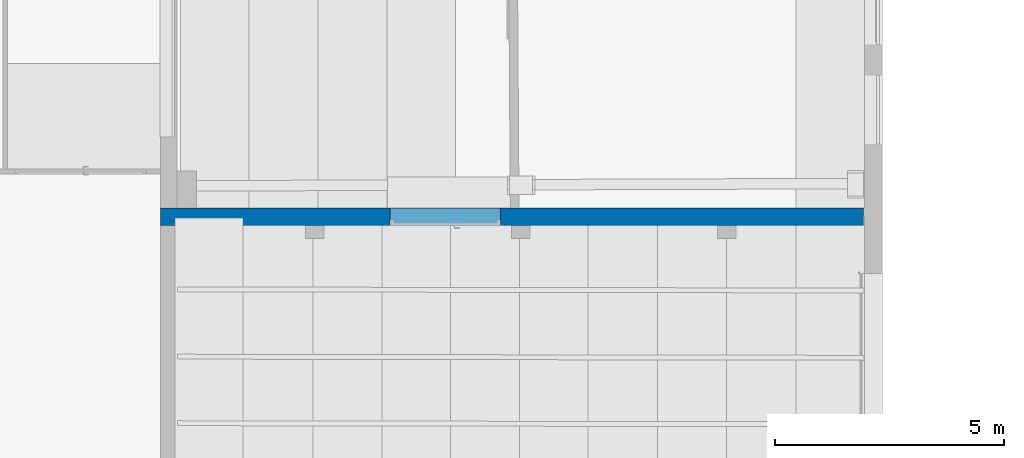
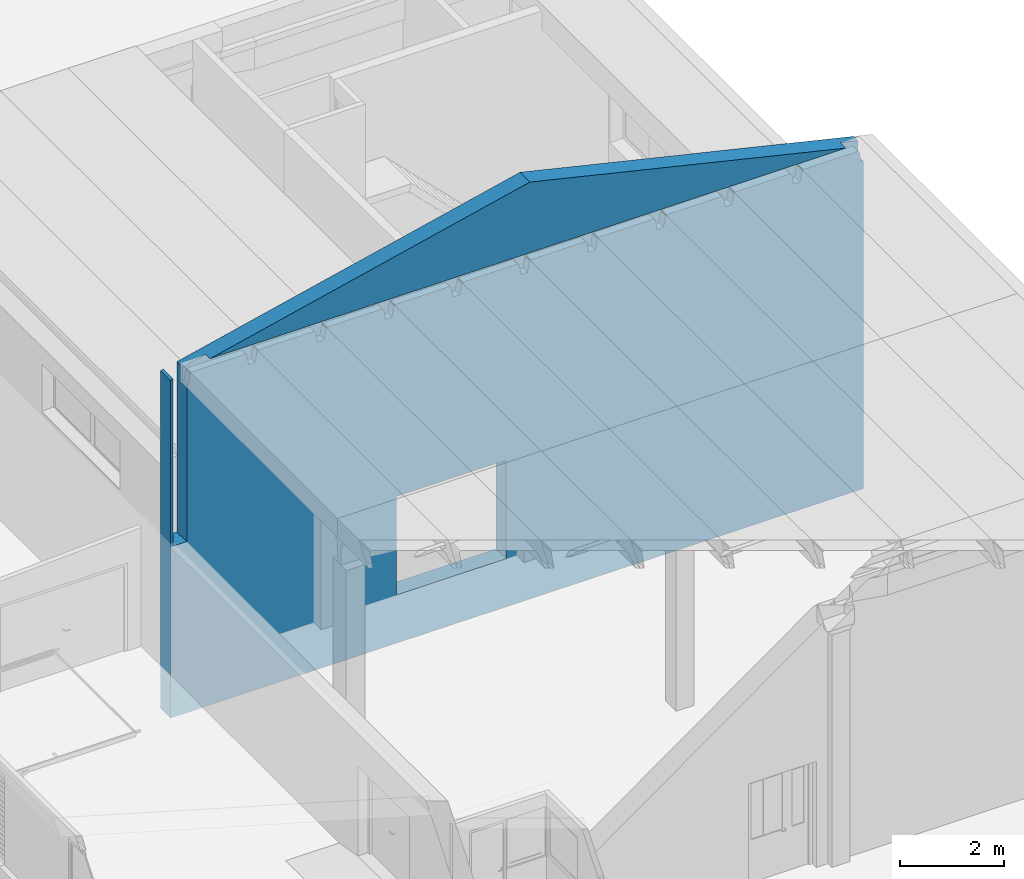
# One storey, part 140 of 301: 1 wall, 1 opening.
"""IFC2X3 building model written with IfcOpenShell, lengths in millimetres."""

from ifc_helpers import new_model, entity, si_unit, converted_unit, derived_unit, money_unit, direction, frame, origin_with_axes, place, context, subcontext, project, spatial, faceted_brep, material, type_object, element, save


model = new_model("IFC2X3")

# Units and contexts
model_context = context("Model", 3, precision=0.01, world=origin_with_axes(), true_north=direction((0.0, 1.0)))
body_context = subcontext(model_context, "Body", "Model", "MODEL_VIEW")
ifc_project = project(units=[si_unit("LENGTHUNIT", "METRE", prefix="MILLI"), si_unit("AREAUNIT", "SQUARE_METRE"), si_unit("VOLUMEUNIT", "CUBIC_METRE"), converted_unit("PLANEANGLEUNIT", "DEGREE", entity("IfcPlaneAngleMeasure", 0.0174532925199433), si_unit("PLANEANGLEUNIT", "RADIAN"), dimensions=[0, 0, 0, 0, 0, 0, 0]), money_unit("EUR"), converted_unit("TIMEUNIT", "Year", entity("IfcTimeMeasure", 31557600.0), si_unit("TIMEUNIT", "SECOND"), dimensions=[0, 0, 1, 0, 0, 0, 0]), si_unit("MASSUNIT", "GRAM", prefix="KILO"), si_unit("THERMODYNAMICTEMPERATUREUNIT", "DEGREE_CELSIUS"), si_unit("LUMINOUSINTENSITYUNIT", "LUMEN"), si_unit("ENERGYUNIT", "JOULE", prefix="MEGA"), derived_unit("THERMALCONDUCTANCEUNIT", [(si_unit("POWERUNIT", "WATT"), 1), (si_unit("LENGTHUNIT", "METRE"), -1), (si_unit("THERMODYNAMICTEMPERATUREUNIT", "KELVIN"), -1)]), derived_unit("SPECIFICHEATCAPACITYUNIT", [(si_unit("ENERGYUNIT", "JOULE"), 1), (si_unit("MASSUNIT", "GRAM", prefix="KILO"), -1), (si_unit("THERMODYNAMICTEMPERATUREUNIT", "KELVIN"), -1)]), derived_unit("MASSDENSITYUNIT", [(si_unit("MASSUNIT", "GRAM", prefix="KILO"), 1), (si_unit("VOLUMEUNIT", "CUBIC_METRE"), -1)])], contexts=[model_context])

# Site, building, storey
site_placement = place(None, frame((0.0, 0.0, 8650.0), z_axis=(0.0, 0.0, 1.0), x_axis=(1.0, 0.0, 0.0)))
site = spatial("IfcSite", under=ifc_project, at=site_placement, Name="43301:001:0844", CompositionType="ELEMENT")
building_placement = place(site_placement, origin_with_axes())
building = spatial("IfcBuilding", under=site, at=building_placement, Name="Kuressaare Ametikooli tuulikute mehaanikute õppekorpus", CompositionType="ELEMENT")
storey_placement = place(building_placement, origin_with_axes())
storey = spatial("IfcBuildingStorey", under=building, at=storey_placement, Name="1.korrus", CompositionType="ELEMENT", Elevation=0.0)

# Wall, opening
ifc_material = material(Name="GENEERILINE - KONSTRUKTRIOON")
wall_type = type_object("IfcWallType", Name="GENEERILINE - KONSTRUKTRIOON 380", PredefinedType="NOTDEFINED")
wall_placement = place(storey_placement, frame((103647.5122070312, 62318.34411621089, -1000.0), z_axis=(0.0, 0.0, 1.0), x_axis=(-0.9999999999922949, -3.925583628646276e-06, 0.0)))
wall = element("IfcWall", 1, at=wall_placement, inside=storey, type_object=wall_type, material=ifc_material, context=body_context, shape_type="Brep", body=[
    faceted_brep([(15388.75576031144, 0.0, 7980.099571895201), (7799.398324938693, 0.0, 9753.468595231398), (420.0000000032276, 0.0, 8009.271351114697), (420.0000000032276, 0.0, 0.0), (15748.7557603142, 0.0, 0.0), (15748.7557603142, 0.0, 7895.980085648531), (15688.75576031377, 0.0, 7910.00000002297), (15688.75576031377, 0.0, 4000.0), (15388.75576031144, 0.0, 4000.0), (10750.41112469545, 0.0, 3430.0), (10750.41112469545, 0.0, 1130.0), (8330.411124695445, 0.0, 1130.0), (8330.411124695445, 0.0, 3430.0), (15388.75661039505, 216.5496095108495, 7980.099571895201), (14875.62753598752, 216.5516238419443, 8100.0), (14875.62817761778, 379.9999999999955, 8100.0), (7799.399816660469, 380.0000000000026, 9753.468595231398), (420.0006593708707, 167.9667798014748, 8009.271351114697), (803.8587887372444, 380.0000000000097, 8100.0), (803.8579563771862, 167.9652729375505, 8100.0), (420.0006593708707, 167.9667798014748, 7659.999865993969), (420.0014917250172, 380.0000000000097, 7659.999865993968), (420.0014917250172, 380.0000000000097, 0.0), (15748.75725203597, 379.9999999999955, 0.0), (15748.75725203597, 379.9999999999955, 7895.98008564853), (15688.75725203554, 379.9999999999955, 7910.000000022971), (15688.75725203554, 379.9999999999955, 4000.0), (15388.75725203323, 379.9999999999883, 4000.0), (15388.75725203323, 379.9999999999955, 7659.999865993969), (15388.75661039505, 216.5496095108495, 7659.999865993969), (10750.41112469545, 380.0000000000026, 1130.0), (10750.41112469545, 380.0000000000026, 3430.0), (8330.41112469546, 380.0000000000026, 1130.0), (8330.41112469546, 380.0000000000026, 3430.0), (15354.75660740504, 216.5497429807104, 7659.999865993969), (15320.66257485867, 216.5498768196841, 7879.623205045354), (15314.97515704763, 216.5498991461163, 7899.247527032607), (15302.63678486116, 216.5499475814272, 7915.533266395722), (15285.28429592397, 216.5500157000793, 7926.319918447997), (15265.21971244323, 216.5500944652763, 7930.176500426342), (14109.47852598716, 216.5546314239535, 7930.176500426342), (14106.85257687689, 216.554641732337, 7930.264850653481), (14089.78391544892, 216.5547087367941, 7927.064983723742), (14074.91081180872, 216.5547671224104, 7918.100100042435), (14064.11008909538, 216.554809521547, 7904.50146995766), (14058.74468047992, 216.5548305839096, 7887.985091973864), (14017.82327707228, 216.5549912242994, 7659.999865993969), (13948.75661040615, 216.5552623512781, 7659.999865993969), (13948.75661040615, 216.5552623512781, 8100.0), (13948.75660018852, 213.9524324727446, 8100.0), (12421.63529326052, 213.9584273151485, 8100.0), (12421.63528297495, 211.3382863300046, 8100.0), (10921.63528298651, 211.3441747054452, 8100.0), (10921.63527279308, 208.7475087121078, 8100.0), (9421.635272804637, 208.7533970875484, 8100.0), (9421.635262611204, 206.1567310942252, 8100.0), (7921.635262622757, 206.1626194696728, 8100.0), (7921.635242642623, 201.0728945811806, 8100.0), (6421.635242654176, 201.0787829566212, 8100.0), (6421.635210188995, 192.8086299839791, 8100.000000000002), (4911.635210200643, 192.8145576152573, 8100.000000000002), (4911.635177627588, 184.5169290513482, 8100.000000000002), (3401.635177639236, 184.5228566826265, 8100.000000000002), (3401.635145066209, 176.2252281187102, 8100.000000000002), (1891.635145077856, 176.2311557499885, 8100.000000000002), (1891.635112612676, 167.9610027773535, 8100.0), (1891.635112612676, 167.9610027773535, 7659.999865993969), (1821.635112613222, 167.9612775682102, 7659.999865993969), (1779.819390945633, 167.9614417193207, 7889.861366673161), (1773.544638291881, 167.961466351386, 7906.466350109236), (1761.786733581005, 167.9615125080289, 7919.764833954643), (1746.075516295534, 167.961574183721, 7928.026531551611), (1728.455197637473, 167.9616433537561, 7930.176500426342), (557.3819686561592, 167.966240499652, 7930.176500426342), (537.3242740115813, 167.9663192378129, 7926.494206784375), (519.8824714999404, 167.9663877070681, 7915.927564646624), (507.3312928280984, 167.9664369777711, 7899.854658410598), (501.3076424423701, 167.9664606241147, 7880.3716905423), (466.6351156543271, 167.9665967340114, 7659.999865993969), (466.6359480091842, 380.0000000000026, 7659.999865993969), (501.3084747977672, 380.0000000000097, 7880.3716905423), (507.3321251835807, 380.0000000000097, 7899.854658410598), (519.8833038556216, 380.0000000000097, 7915.927564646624), (537.3251063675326, 380.0000000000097, 7926.494206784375), (557.3828010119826, 380.0000000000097, 7930.176500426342), (1728.45603001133, 380.0000000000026, 7930.176500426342), (1746.076348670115, 380.0000000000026, 7928.026531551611), (1761.787565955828, 380.0000000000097, 7919.764833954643), (1773.545470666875, 380.0000000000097, 7906.466350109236), (1779.820223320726, 380.0000000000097, 7889.861366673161), (1821.635944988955, 380.0000000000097, 7659.999865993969), (1967.135948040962, 380.0000000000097, 7659.99986599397), (2002.133106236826, 380.0000000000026, 7880.961904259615), (2008.371407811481, 380.0000000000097, 7900.300399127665), (2021.031632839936, 380.0000000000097, 7916.194186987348), (2038.48540147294, 380.0000000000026, 7926.59898159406), (2058.487780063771, 380.0000000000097, 7930.176500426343), (3237.214866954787, 380.0000000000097, 7930.176500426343), (3240.335330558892, 380.0000000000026, 7930.264850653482), (3257.193589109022, 380.0000000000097, 7927.357122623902), (3272.04782423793, 380.0000000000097, 7918.871401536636), (3283.114947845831, 380.0000000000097, 7905.826305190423), (3289.066473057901, 380.0000000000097, 7889.787754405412), (3331.169278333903, 380.0000000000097, 7659.99986599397), (3477.135948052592, 380.0000000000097, 7659.99986599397), (3512.133106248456, 380.0000000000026, 7880.961904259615), (3518.371407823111, 380.0000000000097, 7900.300399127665), (3531.031632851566, 380.0000000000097, 7916.194186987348), (3548.485401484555, 380.0000000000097, 7926.59898159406), (3568.487780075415, 380.0000000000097, 7930.176500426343), (4747.214866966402, 380.0000000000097, 7930.176500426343), (4750.335330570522, 380.0000000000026, 7930.264850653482), (4767.193589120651, 380.0000000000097, 7927.357122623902), (4782.047824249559, 380.0000000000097, 7918.871401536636), (4793.114947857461, 380.0000000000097, 7905.826305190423), (4799.066473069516, 380.0000000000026, 7889.787754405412), (4841.169278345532, 380.0000000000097, 7659.99986599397), (4987.135948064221, 380.0000000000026, 7659.99986599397), (5022.133106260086, 380.0000000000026, 7880.961904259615), (5028.371407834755, 380.0000000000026, 7900.300399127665), (5041.031632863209, 380.0000000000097, 7916.194186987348), (5058.485401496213, 380.0000000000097, 7926.59898159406), (5078.487780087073, 380.0000000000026, 7930.176500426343), (6257.214866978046, 380.0000000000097, 7930.176500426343), (6260.335330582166, 380.0000000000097, 7930.264850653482), (6277.193589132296, 380.0000000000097, 7927.357122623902), (6292.047824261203, 380.0000000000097, 7918.871401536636), (6303.114947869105, 380.0000000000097, 7905.826305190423), (6309.06647308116, 380.0000000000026, 7889.787754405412), (6351.169278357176, 380.0000000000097, 7659.99986599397), (6496.63594805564, 380.0000000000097, 7659.999865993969), (6531.308474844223, 380.0000000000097, 7880.3716905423), (6537.332125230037, 380.0000000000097, 7899.854658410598), (6549.883303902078, 380.0000000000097, 7915.927564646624), (6567.325106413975, 380.0000000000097, 7926.494206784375), (6587.382801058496, 380.0000000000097, 7930.176500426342), (7758.456030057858, 380.0000000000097, 7930.176500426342), (7776.076348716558, 380.0000000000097, 7928.026531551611), (7791.787566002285, 380.0000000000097, 7919.764833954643), (7803.545470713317, 380.0000000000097, 7906.466350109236), (7809.820223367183, 380.0000000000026, 7889.861366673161), (7851.635945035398, 380.0000000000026, 7659.999865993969), (7996.635948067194, 380.0000000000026, 7659.999865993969), (8031.308474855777, 380.0000000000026, 7880.3716905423), (8037.332125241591, 380.0000000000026, 7899.854658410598), (8049.883303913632, 380.0000000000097, 7915.927564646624), (8067.325106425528, 380.0000000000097, 7926.494206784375), (8087.382801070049, 380.0000000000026, 7930.176500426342), (9258.45603006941, 380.0000000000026, 7930.176500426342), (9276.076348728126, 380.0000000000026, 7928.026531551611), (9291.787566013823, 380.0000000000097, 7919.764833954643), (9303.545470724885, 380.0000000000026, 7906.466350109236), (9309.820223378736, 380.0000000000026, 7889.861366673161), (9351.635945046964, 380.0000000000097, 7659.999865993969), (9496.635948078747, 380.0000000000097, 7659.999865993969), (9531.30847486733, 380.0000000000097, 7880.3716905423), (9537.332125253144, 380.0000000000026, 7899.854658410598), (9549.883303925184, 380.0000000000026, 7915.927564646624), (9567.325106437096, 380.0000000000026, 7926.494206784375), (9587.38280108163, 380.0000000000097, 7930.176500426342), (10758.45603008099, 380.0000000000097, 7930.176500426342), (10776.07634873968, 380.0000000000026, 7928.026531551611), (10791.78756602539, 380.0000000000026, 7919.764833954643), (10803.54547073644, 380.0000000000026, 7906.466350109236), (10809.82022339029, 380.0000000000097, 7889.861366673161), (10851.63594505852, 380.0000000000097, 7659.999865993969), (10991.63594505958, 380.0000000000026, 7659.999865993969), (11033.45166672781, 380.0000000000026, 7889.861366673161), (11039.72641938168, 380.0000000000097, 7906.466350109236), (11051.48432409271, 380.0000000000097, 7919.764833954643), (11067.19554137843, 380.0000000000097, 7928.026531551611), (11084.8158600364, 380.0000000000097, 7930.176500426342), (12255.88908903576, 380.0000000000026, 7930.176500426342), (12275.94678368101, 380.0000000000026, 7926.494206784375), (12293.38858619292, 380.0000000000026, 7915.927564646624), (12305.93976486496, 380.0000000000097, 7899.854658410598), (12311.96341525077, 380.0000000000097, 7880.3716905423), (12346.63594203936, 380.0000000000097, 7659.999865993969), (12497.99201350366, 380.0000000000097, 7659.999865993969), (12533.32039600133, 380.0000000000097, 7880.552399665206), (12538.71669120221, 380.0000000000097, 7898.487123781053), (12549.72812042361, 380.0000000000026, 7913.637132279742), (12561.68344554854, 380.0000000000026, 7922.631110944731), (12575.54106410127, 380.0000000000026, 7928.269183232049), (12590.37964867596, 380.0000000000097, 7930.176500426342), (13782.56586675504, 380.0000000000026, 7930.176500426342), (13785.62771219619, 380.0000000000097, 7930.264850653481), (13804.75649433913, 380.0000000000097, 7926.536818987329), (13821.05452933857, 380.0000000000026, 7915.851193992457), (13829.99587862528, 380.0000000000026, 7903.928347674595), (13834.91966241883, 380.0000000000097, 7889.862134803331), (13877.49159103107, 380.0000000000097, 7659.999865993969), (14017.82391868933, 380.0000000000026, 7659.999865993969), (14058.74532209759, 380.0000000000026, 7887.985091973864), (14064.11073071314, 380.0000000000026, 7904.50146995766), (14074.91145342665, 380.0000000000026, 7918.100100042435), (14089.78455706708, 380.0000000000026, 7927.064983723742), (14106.85321849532, 380.0000000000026, 7930.264850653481), (14109.47916760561, 380.0000000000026, 7930.176500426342), (15265.22035407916, 380.0000000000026, 7930.176500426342), (15285.28493756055, 380.0000000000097, 7926.319918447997), (15302.63742649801, 380.0000000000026, 7915.533266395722), (15314.97579868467, 380.0000000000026, 7899.247527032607), (15320.6632164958, 380.0000000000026, 7879.623205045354), (15354.75724904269, 380.0000000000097, 7659.999865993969), (13877.49093919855, 213.9527122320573, 7659.999865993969), (13948.75660018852, 213.9524324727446, 7659.999865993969), (12561.6827937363, 213.9578775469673, 7922.631110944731), (12549.72746861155, 213.9579244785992, 7913.637132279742), (12538.71603939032, 213.9579677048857, 7898.487123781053), (12533.31974418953, 213.9579888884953, 7880.552399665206), (12497.9913616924, 213.9581275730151, 7659.999865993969), (12421.63529326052, 213.9584273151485, 7659.999865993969), (13834.91901058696, 213.9528793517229, 7889.862134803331), (13829.9952267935, 213.9528986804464, 7903.928347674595), (13821.05387750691, 213.9529337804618, 7915.851193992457), (13804.75584250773, 213.9529977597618, 7926.536818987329), (13785.62706036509, 213.9530728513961, 7930.264850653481), (13782.56521492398, 213.9530848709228, 7930.176500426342), (12590.37899686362, 213.9577648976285, 7930.176500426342), (12575.54041228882, 213.9578231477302, 7928.269183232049), (12421.63528297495, 211.3382863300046, 7659.999865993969), (11067.19487930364, 211.3436032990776, 7928.026531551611), (11051.48366201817, 211.3436649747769, 7919.764833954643), (11039.72575730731, 211.3437111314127, 7906.466350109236), (11033.45100465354, 211.343735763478, 7889.861366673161), (10991.63528298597, 211.3438999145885, 7659.999865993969), (10921.63528298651, 211.3441747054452, 7659.999865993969), (12346.63527994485, 211.3385807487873, 7659.999865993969), (12311.96275315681, 211.3387168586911, 7880.3716905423), (12305.93910277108, 211.3387405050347, 7899.854658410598), (12293.38792409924, 211.3387897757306, 7915.927564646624), (12275.94612158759, 211.3388582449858, 7926.494206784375), (12255.88842694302, 211.3389369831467, 7930.176500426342), (11084.8151979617, 211.3435341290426, 7930.176500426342), (10921.63527279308, 208.7475087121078, 7659.999865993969), (9567.324434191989, 208.7528251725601, 7926.494206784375), (9549.882631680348, 208.7528936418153, 7915.927564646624), (9537.331453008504, 208.7529429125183, 7899.854658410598), (9531.307802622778, 208.7529665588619, 7880.3716905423), (9496.635275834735, 208.7531026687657, 7659.999865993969), (9421.635272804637, 208.7533970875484, 7659.999865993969), (10851.63527279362, 208.7477835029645, 7659.999865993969), (10809.81955112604, 208.747947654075, 7889.861366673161), (10803.54479847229, 208.7479722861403, 7906.466350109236), (10791.78689376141, 208.7480184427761, 7919.764833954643), (10776.07567647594, 208.7480801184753, 7928.026531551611), (10758.45535781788, 208.7481492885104, 7930.176500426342), (9587.382128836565, 208.7527464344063, 7930.176500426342), (9421.635262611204, 206.1567310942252, 7659.999865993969), (8067.32442401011, 206.1620475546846, 7926.494206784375), (8049.882621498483, 206.1621160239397, 7915.927564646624), (8037.331442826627, 206.1621652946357, 7899.854658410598), (8031.307792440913, 206.1621889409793, 7880.3716905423), (7996.635265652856, 206.1623250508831, 7659.999865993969), (7921.635262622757, 206.1626194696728, 7659.999865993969), (9351.635262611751, 206.1570058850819, 7659.999865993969), (9309.819540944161, 206.1571700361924, 7889.861366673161), (9303.54478829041, 206.1571946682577, 7906.466350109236), (9291.786883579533, 206.1572408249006, 7919.764833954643), (9276.075666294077, 206.1573025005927, 7928.026531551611), (9258.455347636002, 206.1573716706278, 7930.176500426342), (8087.382118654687, 206.1619688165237, 7930.176500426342), (7921.635242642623, 201.0728945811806, 7659.999865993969), (6567.324404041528, 201.0782110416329, 7926.494206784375), (6549.882601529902, 201.0782795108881, 7915.927564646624), (6537.331422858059, 201.0783287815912, 7899.854658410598), (6531.307772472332, 201.0783524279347, 7880.3716905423), (6496.635245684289, 201.0784885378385, 7659.999865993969), (6421.635242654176, 201.0787829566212, 7659.999865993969), (7851.635242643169, 201.0731693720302, 7659.999865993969), (7809.819520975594, 201.0733335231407, 7889.861366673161), (7803.544768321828, 201.0733581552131, 7906.466350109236), (7791.786863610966, 201.0734043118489, 7919.764833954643), (7776.075646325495, 201.0734659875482, 7928.026531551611), (7758.455327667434, 201.0735351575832, 7930.176500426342), (6587.38209868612, 201.0781323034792, 7930.176500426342), (6421.635210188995, 192.8086299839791, 7659.99986599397), (5058.484666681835, 192.8139811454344, 7926.59898159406), (5041.030898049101, 192.8140496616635, 7916.194186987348), (5028.370673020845, 192.814099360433, 7900.300399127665), (5022.132371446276, 192.8141238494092, 7880.961904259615), (4987.135213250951, 192.8142612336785, 7659.99986599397), (4911.635210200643, 192.8145576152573, 7659.99986599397), (6351.168543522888, 192.8089066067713, 7659.99986599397), (6309.065738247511, 192.8090718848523, 7889.787754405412), (6303.114213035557, 192.8090952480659, 7905.826305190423), (6292.047089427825, 192.8091386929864, 7918.871401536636), (6277.192854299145, 192.8091970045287, 7927.357122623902), (6260.334595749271, 192.8092631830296, 7930.264850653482), (6257.214132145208, 192.8092754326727, 7930.176500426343), (5078.487045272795, 192.8139026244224, 7930.176500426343), (4911.635177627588, 184.5169290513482, 7659.99986599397), (3548.484634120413, 184.5222802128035, 7926.59898159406), (3531.030865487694, 184.5223487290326, 7916.194186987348), (3518.370640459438, 184.5223984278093, 7900.300399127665), (3512.132338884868, 184.5224229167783, 7880.961904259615), (3477.135180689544, 184.5225603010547, 7659.99986599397), (3401.635177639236, 184.5228566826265, 7659.99986599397), (4841.168510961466, 184.5172056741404, 7659.99986599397), (4799.065705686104, 184.5173709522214, 7889.787754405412), (4793.114180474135, 184.517394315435, 7905.826305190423), (4782.047056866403, 184.5174377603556, 7918.871401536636), (4767.192821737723, 184.5174960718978, 7927.357122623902), (4750.334563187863, 184.5175622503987, 7930.264850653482), (4747.214099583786, 184.5175745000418, 7930.176500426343), (3568.487012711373, 184.5222016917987, 7930.176500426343), (3401.635145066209, 176.2252281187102, 7659.99986599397), (2038.484601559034, 176.2305792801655, 7926.59898159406), (2021.0308329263, 176.2306477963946, 7916.194186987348), (2008.370607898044, 176.2306974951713, 7900.300399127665), (2002.132306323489, 176.2307219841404, 7880.961904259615), (1967.135148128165, 176.2308593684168, 7659.99986599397), (1891.635145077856, 176.2311557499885, 7659.99986599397), (3331.168478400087, 176.2255047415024, 7659.99986599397), (3289.065673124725, 176.2256700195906, 7889.787754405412), (3283.114147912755, 176.225693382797, 7905.826305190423), (3272.047024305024, 176.2257368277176, 7918.871401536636), (3257.192789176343, 176.2257951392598, 7927.357122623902), (3240.33453062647, 176.2258613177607, 7930.264850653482), (3237.214067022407, 176.2258735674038, 7930.176500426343), (2058.486980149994, 176.2305007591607, 7930.176500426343)], [[[0, 1, 2, 3, 4, 5, 6, 7, 8], [9, 10, 11, 12]], [[1, 0, 13, 14, 15, 16]], [[17, 2, 1, 16, 18, 19]], [[2, 17, 20, 21, 22, 3]], [[22, 23, 4, 3]], [[24, 5, 4, 23]], [[25, 6, 5, 24]], [[6, 25, 26, 7]], [[8, 7, 26, 27]], [[13, 0, 8, 27, 28, 29]], [[30, 10, 9, 31]], [[32, 11, 10, 30]], [[33, 12, 11, 32]], [[31, 9, 12, 33]], [[14, 13, 29, 34, 35, 36, 37, 38, 39, 40, 41, 42, 43, 44, 45, 46, 47, 48]], [[15, 14, 48, 49, 50, 51, 52, 53, 54, 55, 56, 57, 58, 59, 60, 61, 62, 63, 64, 65, 19, 18]], [[16, 15, 18]], [[17, 19, 65, 66, 67, 68, 69, 70, 71, 72, 73, 74, 75, 76, 77, 78, 20]], [[79, 21, 20, 78]], [[25, 24, 23, 22, 21, 79, 80, 81, 82, 83, 84, 85, 86, 87, 88, 89, 90, 91, 92, 93, 94, 95, 96, 97, 98, 99, 100, 101, 102, 103, 104, 105, 106, 107, 108, 109, 110, 111, 112, 113, 114, 115, 116, 117, 118, 119, 120, 121, 122, 123, 124, 125, 126, 127, 128, 129, 130, 131, 132, 133, 134, 135, 136, 137, 138, 139, 140, 141, 142, 143, 144, 145, 146, 147, 148, 149, 150, 151, 152, 153, 154, 155, 156, 157, 158, 159, 160, 161, 162, 163, 164, 165, 166, 167, 168, 169, 170, 171, 172, 173, 174, 175, 176, 177, 178, 179, 180, 181, 182, 183, 184, 185, 186, 187, 188, 189, 190, 191, 192, 193, 194, 195, 196, 197, 198, 199, 200, 201, 202, 203, 204, 28, 27, 26], [32, 30, 31, 33]], [[29, 28, 204, 34]], [[34, 204, 203, 35]], [[35, 203, 202, 36]], [[36, 202, 201, 37]], [[37, 201, 200, 38]], [[38, 200, 199, 39]], [[39, 199, 198, 40]], [[40, 198, 197, 41]], [[41, 197, 196, 42]], [[42, 196, 195, 43]], [[43, 195, 194, 44]], [[44, 194, 193, 45]], [[45, 193, 192, 46]], [[205, 206, 47, 46, 192, 191]], [[49, 48, 47, 206]], [[207, 208, 209, 210, 211, 212, 50, 49, 206, 205, 213, 214, 215, 216, 217, 218, 219, 220]], [[51, 50, 212, 221]], [[222, 223, 224, 225, 226, 227, 52, 51, 221, 228, 229, 230, 231, 232, 233, 234]], [[53, 52, 227, 235]], [[236, 237, 238, 239, 240, 241, 54, 53, 235, 242, 243, 244, 245, 246, 247, 248]], [[55, 54, 241, 249]], [[250, 251, 252, 253, 254, 255, 56, 55, 249, 256, 257, 258, 259, 260, 261, 262]], [[57, 56, 255, 263]], [[264, 265, 266, 267, 268, 269, 58, 57, 263, 270, 271, 272, 273, 274, 275, 276]], [[59, 58, 269, 277]], [[278, 279, 280, 281, 282, 283, 60, 59, 277, 284, 285, 286, 287, 288, 289, 290, 291]], [[61, 60, 283, 292]], [[293, 294, 295, 296, 297, 298, 62, 61, 292, 299, 300, 301, 302, 303, 304, 305, 306]], [[63, 62, 298, 307]], [[308, 309, 310, 311, 312, 313, 64, 63, 307, 314, 315, 316, 317, 318, 319, 320, 321]], [[65, 64, 313, 66]], [[312, 91, 90, 67, 66, 313]], [[67, 90, 89, 68]], [[68, 89, 88, 69]], [[69, 88, 87, 70]], [[70, 87, 86, 71]], [[71, 86, 85, 72]], [[72, 85, 84, 73]], [[73, 84, 83, 74]], [[74, 83, 82, 75]], [[75, 82, 81, 76]], [[76, 81, 80, 77]], [[77, 80, 79, 78]], [[311, 92, 91, 312]], [[310, 93, 92, 311]], [[309, 94, 93, 310]], [[308, 95, 94, 309]], [[321, 96, 95, 308]], [[320, 97, 96, 321]], [[319, 98, 97, 320]], [[318, 99, 98, 319]], [[317, 100, 99, 318]], [[316, 101, 100, 317]], [[315, 102, 101, 316]], [[314, 103, 102, 315]], [[297, 104, 103, 314, 307, 298]], [[296, 105, 104, 297]], [[295, 106, 105, 296]], [[294, 107, 106, 295]], [[293, 108, 107, 294]], [[306, 109, 108, 293]], [[305, 110, 109, 306]], [[304, 111, 110, 305]], [[303, 112, 111, 304]], [[302, 113, 112, 303]], [[301, 114, 113, 302]], [[300, 115, 114, 301]], [[299, 116, 115, 300]], [[282, 117, 116, 299, 292, 283]], [[281, 118, 117, 282]], [[280, 119, 118, 281]], [[279, 120, 119, 280]], [[278, 121, 120, 279]], [[291, 122, 121, 278]], [[290, 123, 122, 291]], [[289, 124, 123, 290]], [[288, 125, 124, 289]], [[287, 126, 125, 288]], [[286, 127, 126, 287]], [[285, 128, 127, 286]], [[284, 129, 128, 285]], [[268, 130, 129, 284, 277, 269]], [[267, 131, 130, 268]], [[266, 132, 131, 267]], [[265, 133, 132, 266]], [[264, 134, 133, 265]], [[276, 135, 134, 264]], [[275, 136, 135, 276]], [[274, 137, 136, 275]], [[273, 138, 137, 274]], [[272, 139, 138, 273]], [[271, 140, 139, 272]], [[270, 141, 140, 271]], [[254, 142, 141, 270, 263, 255]], [[253, 143, 142, 254]], [[252, 144, 143, 253]], [[251, 145, 144, 252]], [[250, 146, 145, 251]], [[262, 147, 146, 250]], [[261, 148, 147, 262]], [[260, 149, 148, 261]], [[259, 150, 149, 260]], [[258, 151, 150, 259]], [[257, 152, 151, 258]], [[256, 153, 152, 257]], [[240, 154, 153, 256, 249, 241]], [[239, 155, 154, 240]], [[238, 156, 155, 239]], [[237, 157, 156, 238]], [[236, 158, 157, 237]], [[248, 159, 158, 236]], [[247, 160, 159, 248]], [[246, 161, 160, 247]], [[245, 162, 161, 246]], [[244, 163, 162, 245]], [[243, 164, 163, 244]], [[242, 165, 164, 243]], [[242, 235, 227, 226, 166, 165]], [[225, 167, 166, 226]], [[224, 168, 167, 225]], [[223, 169, 168, 224]], [[222, 170, 169, 223]], [[234, 171, 170, 222]], [[233, 172, 171, 234]], [[232, 173, 172, 233]], [[231, 174, 173, 232]], [[230, 175, 174, 231]], [[229, 176, 175, 230]], [[228, 177, 176, 229]], [[228, 221, 212, 211, 178, 177]], [[210, 179, 178, 211]], [[209, 180, 179, 210]], [[208, 181, 180, 209]], [[207, 182, 181, 208]], [[220, 183, 182, 207]], [[219, 184, 183, 220]], [[218, 185, 184, 219]], [[217, 186, 185, 218]], [[216, 187, 186, 217]], [[215, 188, 187, 216]], [[214, 189, 188, 215]], [[213, 190, 189, 214]], [[205, 191, 190, 213]]]),
])
opening_placement = place(wall_placement, frame((9540.411124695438, 0.0, 1130.0), z_axis=(0.0, 0.0, 1.0), x_axis=(1.0, 0.0, 0.0)))
element("IfcOpeningElement", 2, at=opening_placement, cuts=wall, Name="SU-XX", context=body_context, shape_type="Brep", body=[
    faceted_brep([(-1209.999999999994, -1.061823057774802, 2300.0), (-1209.999999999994, -1.061823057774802, 0.0), (1209.999999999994, -1.061823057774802, 0.0), (1209.999999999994, -1.061823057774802, 2300.0), (-1209.999999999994, 381.0618230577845, 2300.0), (-1209.999999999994, 381.0618230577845, 0.0), (1209.999999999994, 381.0618230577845, 0.0), (1209.999999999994, 381.0618230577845, 2300.0)], [[[0, 1, 2, 3]], [[4, 5, 1, 0]], [[5, 6, 2, 1]], [[6, 7, 3, 2]], [[7, 4, 0, 3]], [[6, 5, 4, 7]]]),
])

save(model, "model.ifc")
